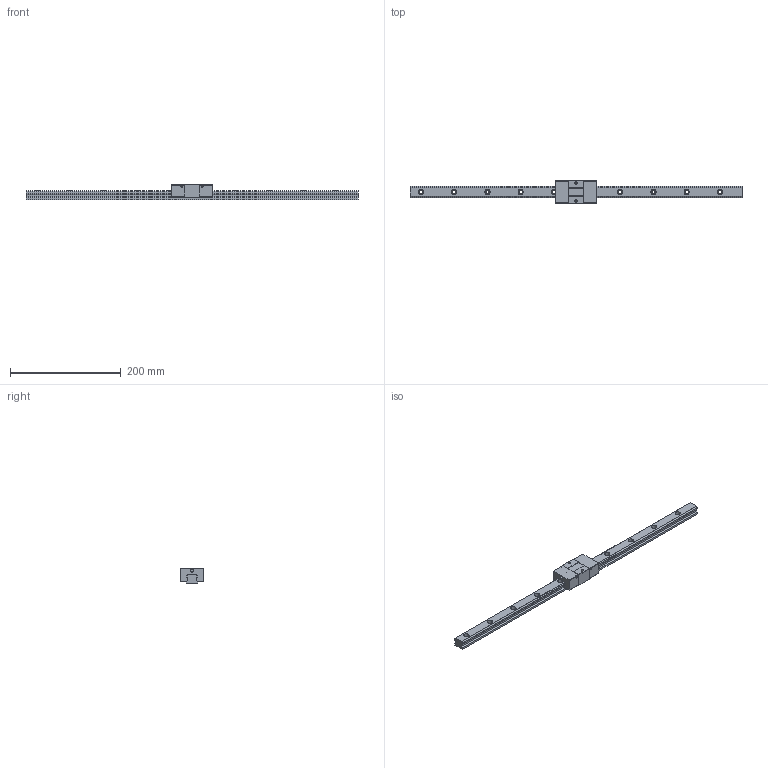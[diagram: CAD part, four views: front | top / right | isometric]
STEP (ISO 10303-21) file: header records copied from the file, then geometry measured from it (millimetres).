
FILE_DESCRIPTION (( 'STEP AP203' ), '1' );
FILE_NAME ('TRS20VS-DZ.STEP', '2024-06-28T07:13:50', ( '' ), ( '' ), 'SwSTEP 2.0', 'SolidWorks 2022', '' );
FILE_SCHEMA (( 'CONFIG_CONTROL_DESIGN' ));
Length unit declared in the file: millimetre
Products named in the file (1): TRS20VS-DZ
Bounding box: 600 x 42 x 28 mm (x, y, z)
Volume: 223513.1 mm3; surface area: 63291.2 mm2
Topology: 2 solids, 2 shells, 186 faces, 484 edges, 320 vertices
Faces by surface type: plane 94, cylinder 92
Entity records: 5863 total; most frequent: DIRECTION 1042, CARTESIAN_POINT 991, ORIENTED_EDGE 968, EDGE_CURVE 484, AXIS2_PLACEMENT_3D 371, VERTEX_POINT 320, VECTOR 300, LINE 300
